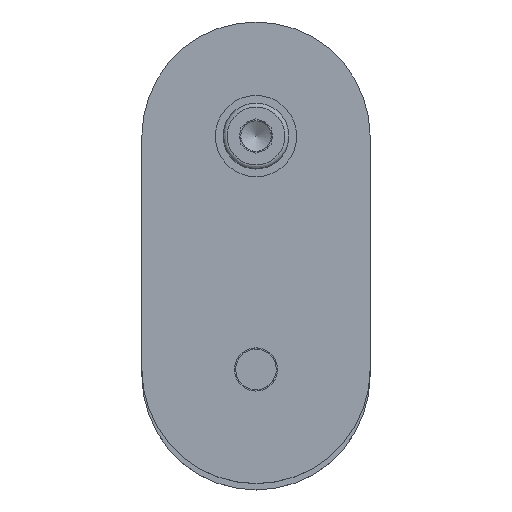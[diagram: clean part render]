
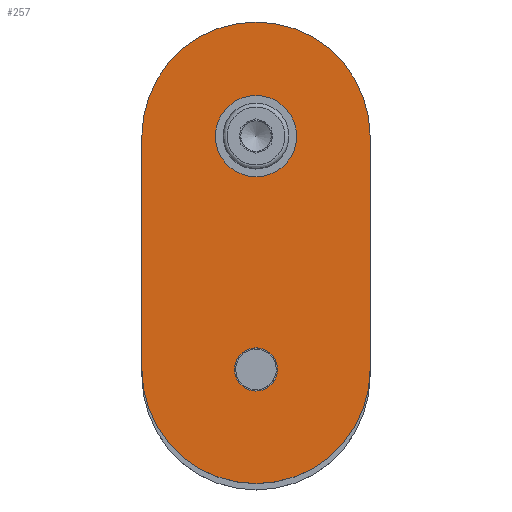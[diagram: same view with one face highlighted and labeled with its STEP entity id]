
A CAD part, top view. The second image highlights one B-rep face of the part: STEP entity #257.
In plain terms, the highlighted planar face has unit normal (0, 0, 1).
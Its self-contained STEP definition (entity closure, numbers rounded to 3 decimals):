
#19 = DIRECTION ( 'NONE',  ( 0., 0., 1. ) ) ;
#36 = VERTEX_POINT ( 'NONE', #555 ) ;
#85 = VERTEX_POINT ( 'NONE', #1105 ) ;
#100 = CIRCLE ( 'NONE', #368, 4.25 ) ;
#234 = CARTESIAN_POINT ( 'NONE',  ( 45., 0., 8. ) ) ;
#257 = ADVANCED_FACE ( 'NONE', ( #500, #1650, #1302 ), #1277, .T. ) ;
#277 = DIRECTION ( 'NONE',  ( 0., 0., 1. ) ) ;
#293 = EDGE_LOOP ( 'NONE', ( #1203, #648, #1871, #1898 ) ) ;
#329 = CIRCLE ( 'NONE', #1058, 4.25 ) ;
#333 = EDGE_LOOP ( 'NONE', ( #1591 ) ) ;
#368 = AXIS2_PLACEMENT_3D ( 'NONE', #1894, #277, #1589 ) ;
#483 = CARTESIAN_POINT ( 'NONE',  ( 26.75, 0., 8. ) ) ;
#500 = FACE_BOUND ( 'NONE', #333, .T. ) ;
#510 = DIRECTION ( 'NONE',  ( -1., 0., 0. ) ) ;
#535 = EDGE_CURVE ( 'NONE', #85, #1909, #1025, .T. ) ;
#555 = CARTESIAN_POINT ( 'NONE',  ( 0., 0., 8. ) ) ;
#560 = DIRECTION ( 'NONE',  ( 0., 1., 0. ) ) ;
#578 = DIRECTION ( 'NONE',  ( 1., 0., 0. ) ) ;
#648 = ORIENTED_EDGE ( 'NONE', *, *, #774, .T. ) ;
#651 = EDGE_LOOP ( 'NONE', ( #836 ) ) ;
#656 = CARTESIAN_POINT ( 'NONE',  ( 22.5, -46., 8. ) ) ;
#708 = EDGE_CURVE ( 'NONE', #1801, #36, #744, .T. ) ;
#744 = CIRCLE ( 'NONE', #1946, 22.5 ) ;
#774 = EDGE_CURVE ( 'NONE', #1909, #1801, #2006, .T. ) ;
#779 = CARTESIAN_POINT ( 'NONE',  ( 22.5, -46., 8. ) ) ;
#836 = ORIENTED_EDGE ( 'NONE', *, *, #1004, .F. ) ;
#932 = DIRECTION ( 'NONE',  ( 0., 0., 1. ) ) ;
#945 = CARTESIAN_POINT ( 'NONE',  ( 26.75, -46., 8. ) ) ;
#968 = CARTESIAN_POINT ( 'NONE',  ( 22.5, -46., 8. ) ) ;
#1002 = DIRECTION ( 'NONE',  ( 0., 0., 1. ) ) ;
#1004 = EDGE_CURVE ( 'NONE', #1759, #1759, #329, .T. ) ;
#1025 = CIRCLE ( 'NONE', #1503, 22.5 ) ;
#1058 = AXIS2_PLACEMENT_3D ( 'NONE', #779, #932, #578 ) ;
#1083 = VECTOR ( 'NONE', #560, 1000. ) ;
#1105 = CARTESIAN_POINT ( 'NONE',  ( 0., -46., 8. ) ) ;
#1180 = CARTESIAN_POINT ( 'NONE',  ( 22.5, 0., 8. ) ) ;
#1182 = EDGE_CURVE ( 'NONE', #36, #85, #1953, .T. ) ;
#1203 = ORIENTED_EDGE ( 'NONE', *, *, #535, .T. ) ;
#1277 = PLANE ( 'NONE',  #1845 ) ;
#1292 = DIRECTION ( 'NONE',  ( 0., -1., 0. ) ) ;
#1302 = FACE_BOUND ( 'NONE', #651, .T. ) ;
#1307 = VERTEX_POINT ( 'NONE', #483 ) ;
#1334 = CARTESIAN_POINT ( 'NONE',  ( 45., 0., 8. ) ) ;
#1407 = EDGE_CURVE ( 'NONE', #1307, #1307, #100, .T. ) ;
#1493 = CARTESIAN_POINT ( 'NONE',  ( 0., 0., 8. ) ) ;
#1503 = AXIS2_PLACEMENT_3D ( 'NONE', #968, #1761, #1721 ) ;
#1589 = DIRECTION ( 'NONE',  ( 1., 0., 0. ) ) ;
#1591 = ORIENTED_EDGE ( 'NONE', *, *, #1407, .F. ) ;
#1650 = FACE_OUTER_BOUND ( 'NONE', #293, .T. ) ;
#1693 = CARTESIAN_POINT ( 'NONE',  ( 45., -46., 8. ) ) ;
#1721 = DIRECTION ( 'NONE',  ( 1., 0., 0. ) ) ;
#1759 = VERTEX_POINT ( 'NONE', #945 ) ;
#1761 = DIRECTION ( 'NONE',  ( 0., 0., 1. ) ) ;
#1798 = DIRECTION ( 'NONE',  ( 1., 0., 0. ) ) ;
#1801 = VERTEX_POINT ( 'NONE', #1334 ) ;
#1845 = AXIS2_PLACEMENT_3D ( 'NONE', #656, #19, #1798 ) ;
#1871 = ORIENTED_EDGE ( 'NONE', *, *, #708, .T. ) ;
#1894 = CARTESIAN_POINT ( 'NONE',  ( 22.5, 0., 8. ) ) ;
#1898 = ORIENTED_EDGE ( 'NONE', *, *, #1182, .T. ) ;
#1909 = VERTEX_POINT ( 'NONE', #1693 ) ;
#1913 = VECTOR ( 'NONE', #1292, 1000. ) ;
#1946 = AXIS2_PLACEMENT_3D ( 'NONE', #1180, #1002, #510 ) ;
#1953 = LINE ( 'NONE', #1493, #1913 ) ;
#2006 = LINE ( 'NONE', #234, #1083 ) ;
